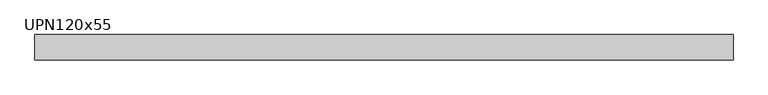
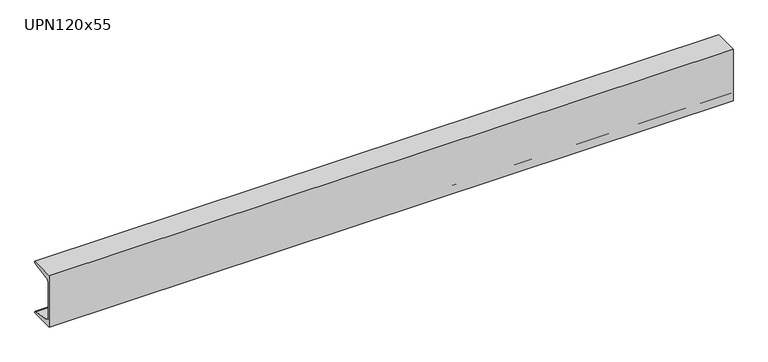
"""IFC4 building model written with IfcOpenShell, lengths in millimetres: beam geometry, M_MC Shapes : UPN120x55."""

import ifcopenshell
import ifcopenshell.guid

model = None  # the IFC model being written
_history = None  # IfcOwnerHistory: only IFC2X3 demands one
_inside = {}  # id of a spatial element -> (the spatial element, [elements in it])
_under = {}  # id of a project, library or spatial element -> (it, [spatial elements below it])
_declared = {}  # id of a project -> (the project, [libraries it declares])
_typed = {}  # id of a type object -> (the type object, [elements of that type])
_made_of = {}  # id of a material, layer set ... -> (it, [elements and type objects made of it])


def new_model(schema):
    """Start an empty IFC model of exactly this schema.

    Asked for "IFC4X3", IfcOpenShell would pick the latest addendum, in which some entities
    have other attributes; the version numbers below select the first issue.
    IFC2X3 requires an IfcOwnerHistory on every rooted entity: one is made here for all.
    """
    global model, _history
    if schema == "IFC4X3":
        model = ifcopenshell.file(schema_version=(4, 3, 0, 0))
    else:
        model = ifcopenshell.file(schema=schema)
    _inside.clear()
    _under.clear()
    _declared.clear()
    _typed.clear()
    _made_of.clear()
    _history = None
    if model.schema == "IFC2X3":
        org = make("IfcOrganization", Name="unknown")
        user = make(
            "IfcPersonAndOrganization",
            ThePerson=make("IfcPerson", FamilyName="unknown"),
            TheOrganization=org,
        )
        app = make(
            "IfcApplication",
            ApplicationDeveloper=org,
            Version="unknown",
            ApplicationFullName="unknown",
            ApplicationIdentifier="unknown",
        )
        _history = make(
            "IfcOwnerHistory",
            OwningUser=user,
            OwningApplication=app,
            ChangeAction="ADDED",
            CreationDate=0,
        )
    return model


def make(cls, **values):
    """One entity of the class cls with the attributes given. An attribute that is None is left unset."""
    return model.create_entity(
        cls, **{name: value for name, value in values.items() if value is not None}
    )


def rooted(cls, **values):
    """An entity with a GlobalId (a new one), such as an element, a storey or a relation."""
    return make(cls, GlobalId=ifcopenshell.guid.new(), OwnerHistory=_history, **values)


def si_unit(unit_type, name, prefix=None):
    """IfcSIUnit, for example si_unit("LENGTHUNIT", "METRE", prefix="MILLI")."""
    return make("IfcSIUnit", UnitType=unit_type, Prefix=prefix, Name=name)


def assignment(units):
    """IfcUnitAssignment: the units of a project."""
    return None if units is None else make("IfcUnitAssignment", Units=units)


def point(xyz):
    """IfcCartesianPoint."""
    return None if xyz is None else make("IfcCartesianPoint", Coordinates=xyz)


def direction(xyz):
    """IfcDirection."""
    return None if xyz is None else make("IfcDirection", DirectionRatios=xyz)


def frame(location, z_axis=None, x_axis=None):
    """IfcAxis2Placement3D, a coordinate frame: its origin and axes. An axis left out is left unset."""
    return make(
        "IfcAxis2Placement3D",
        Location=point(location),
        Axis=direction(z_axis),
        RefDirection=direction(x_axis),
    )


def frame_2d(location, x_axis=None):
    """IfcAxis2Placement2D, a coordinate frame in the plane: its origin and x axis."""
    return make(
        "IfcAxis2Placement2D", Location=point(location), RefDirection=direction(x_axis)
    )


def origin():
    """The frame at (0, 0, 0) with its axes left unset."""
    return frame((0.0, 0.0, 0.0))


def place(relative_to, where):
    """IfcLocalPlacement: puts the frame where relative to a parent placement (None: the world)."""
    return make(
        "IfcLocalPlacement", PlacementRelTo=relative_to, RelativePlacement=where
    )


def context(
    kind, dimensions, precision=None, world=None, true_north=None, identifier=None
):
    """IfcGeometricRepresentationContext, for example the 3D "Model" context."""
    return make(
        "IfcGeometricRepresentationContext",
        ContextIdentifier=identifier,
        ContextType=kind,
        CoordinateSpaceDimension=dimensions,
        Precision=precision,
        WorldCoordinateSystem=world,
        TrueNorth=true_north,
    )


def project(units=None, contexts=None):
    """IfcProject with its units and contexts."""
    return rooted(
        "IfcProject",
        Name="project",
        RepresentationContexts=contexts,
        UnitsInContext=assignment(units),
    )


def spatial(cls, under=None, at=None, **own):
    """A site, building, storey or space (cls), placed at a placement, below another one or the project."""
    s = rooted(cls, ObjectPlacement=at, **own)
    if under is not None:
        _under.setdefault(under.id(), (under, []))[1].append(s)
    return s


def polyline(points):
    """IfcPolyline through the points."""
    return make("IfcPolyline", Points=[point(p) for p in points])


def circle_curve(where, radius):
    """IfcCircle in the frame where."""
    return make("IfcCircle", Position=where, Radius=radius)


def trimmed(basis, trim1, trim2, sense, master):
    """IfcTrimmedCurve: the piece of a basis curve between two trims."""
    return make(
        "IfcTrimmedCurve",
        BasisCurve=basis,
        Trim1=trim1,
        Trim2=trim2,
        SenseAgreement=sense,
        MasterRepresentation=master,
    )


def segment(curve, same_sense, transition):
    """IfcCompositeCurveSegment."""
    return make(
        "IfcCompositeCurveSegment",
        Transition=transition,
        SameSense=same_sense,
        ParentCurve=curve,
    )


def composite_curve(segments, self_intersect=None):
    """IfcCompositeCurve: segments joined end to end."""
    return make("IfcCompositeCurve", Segments=segments, SelfIntersect=self_intersect)


def outline(outer, holes=None, kind="AREA"):
    """IfcArbitraryClosedProfileDef: a profile drawn as a closed curve; with holes, ...WithVoids."""
    if holes is None:
        return make("IfcArbitraryClosedProfileDef", ProfileType=kind, OuterCurve=outer)
    return make(
        "IfcArbitraryProfileDefWithVoids",
        ProfileType=kind,
        OuterCurve=outer,
        InnerCurves=holes,
    )


def extrude(swept, where, along, depth):
    """IfcExtrudedAreaSolid: the profile swept, set in the frame where, extruded along a direction by depth."""
    return make(
        "IfcExtrudedAreaSolid",
        SweptArea=swept,
        Position=where,
        ExtrudedDirection=direction(along),
        Depth=depth,
    )


def shape(context_of_items, identifier, shape_type, items):
    """IfcShapeRepresentation: the items that make up one representation, for example the "Body"."""
    return make(
        "IfcShapeRepresentation",
        ContextOfItems=context_of_items,
        RepresentationIdentifier=identifier,
        RepresentationType=shape_type,
        Items=items,
    )


def source(mapping_origin, context_of_items, identifier, shape_type, items):
    """IfcRepresentationMap: a shape defined once, which mapped items show again and again."""
    return make(
        "IfcRepresentationMap",
        MappingOrigin=mapping_origin,
        MappedRepresentation=shape(context_of_items, identifier, shape_type, items),
    )


def transform(
    local_origin,
    x_axis=None,
    y_axis=None,
    z_axis=None,
    scale=None,
    scale2=None,
    scale3=None,
    uniform=True,
):
    """IfcCartesianTransformationOperator3D, or its non-uniform kind. x_axis, y_axis, z_axis: its Axis1, 2, 3."""
    if uniform:
        return make(
            "IfcCartesianTransformationOperator3D",
            Axis1=direction(x_axis),
            Axis2=direction(y_axis),
            LocalOrigin=point(local_origin),
            Scale=scale,
            Axis3=direction(z_axis),
        )
    return make(
        "IfcCartesianTransformationOperator3DnonUniform",
        Axis1=direction(x_axis),
        Axis2=direction(y_axis),
        LocalOrigin=point(local_origin),
        Scale=scale,
        Axis3=direction(z_axis),
        Scale2=scale2,
        Scale3=scale3,
    )


def mapped(mapping_source, mapping_target):
    """IfcMappedItem: shows the shape of a source again, moved by a transform."""
    return make(
        "IfcMappedItem", MappingSource=mapping_source, MappingTarget=mapping_target
    )


def made_of(thing, what):
    """Note that an element or type object is made of a material, layer set ...; save() writes the relation."""
    if what is not None:
        _made_of.setdefault(what.id(), (what, []))[1].append(thing)
    return thing


def element(
    cls,
    number,
    at=None,
    inside=None,
    cuts=None,
    type_object=None,
    material=None,
    context=None,
    identifier="Body",
    shape_type=None,
    held_by="IfcProductDefinitionShape",
    body=None,
    shapes=None,
    **own,
):
    """One element of the class cls, such as IfcWall. Its Tag is "e" and its number.

    at: its placement. inside: the storey or other place that contains it. cuts: it is an
    opening in that element (IfcRelVoidsElement). A single representation is given by context,
    identifier, shape_type and body (its items); several are given by shapes. held_by: the class
    of the entity that holds the representations. save() writes the other relations.
    """
    e = rooted(cls, Tag="e%d" % number, ObjectPlacement=at, **own)
    if body is not None:
        shapes = [shape(context, identifier, shape_type, body)]
    if shapes is not None:
        e.Representation = make(held_by, Representations=shapes)
    if inside is not None:
        _inside.setdefault(inside.id(), (inside, []))[1].append(e)
    if cuts is not None:
        rooted(
            "IfcRelVoidsElement", RelatingBuildingElement=cuts, RelatedOpeningElement=e
        )
    if type_object is not None:
        _typed.setdefault(type_object.id(), (type_object, []))[1].append(e)
    return made_of(e, material)


def aggregate(whole, parts):
    """IfcRelAggregates: a whole, such as a stair, and the parts it consists of."""
    return rooted("IfcRelAggregates", RelatingObject=whole, RelatedObjects=parts)


def save(model, path):
    """Write the relations noted so far, then the file.

    IfcRelAggregates (storeys below a building ...), IfcRelContainedInSpatialStructure (elements
    in a storey), IfcRelDefinesByType, IfcRelAssociatesMaterial and IfcRelDeclares: one each for
    every whole, place, type object, material and project.
    """
    for whole, parts in _under.values():
        aggregate(whole, parts)
    for where, things in _inside.values():
        rooted(
            "IfcRelContainedInSpatialStructure",
            RelatedElements=things,
            RelatingStructure=where,
        )
    for kind, things in _typed.values():
        rooted("IfcRelDefinesByType", RelatedObjects=things, RelatingType=kind)
    for what, things in _made_of.values():
        rooted("IfcRelAssociatesMaterial", RelatedObjects=things, RelatingMaterial=what)
    for by, libraries in _declared.values():
        rooted("IfcRelDeclares", RelatingContext=by, RelatedDefinitions=libraries)
    model.write(path)


def upn120x55_d7d90911(model_context):
    return source(origin(), model_context, "Body", "SweptSolid", [
        extrude(outline(composite_curve([segment(polyline([(-10.9, 60.0), (44.1, 60.0), (44.1, 59.0253247)]), True, "CONTINUOUS"), segment(trimmed(circle_curve(frame_2d((40.15, 59.0253247)), 3.95), [point((44.1, 59.0253247))], [point((40.7993773, 55.1290689))], False, "CARTESIAN"), True, "CONTINUOUS"), segment(polyline([(40.7993773, 55.1290689), (0.2512455, 48.3710335)]), True, "CONTINUOUS"), segment(trimmed(circle_curve(frame_2d((1.55, 40.5785219)), 7.9), [point((0.2512455, 48.3710335))], [point((-6.35, 40.5785219))], True, "CARTESIAN"), True, "CONTINUOUS"), segment(polyline([(-6.35, 40.5785219), (-6.35, -40.5785219)]), True, "CONTINUOUS"), segment(trimmed(circle_curve(frame_2d((1.55, -40.5785219)), 7.9), [point((-6.35, -40.5785219))], [point((0.2512455, -48.3710335))], True, "CARTESIAN"), True, "CONTINUOUS"), segment(polyline([(0.2512455, -48.3710335), (40.7993773, -55.1290689)]), True, "CONTINUOUS"), segment(trimmed(circle_curve(frame_2d((40.15, -59.0253247)), 3.95), [point((40.7993773, -55.1290689))], [point((44.1, -59.0253247))], False, "CARTESIAN"), True, "CONTINUOUS"), segment(polyline([(44.1, -59.0253247), (44.1, -60.0), (-10.9, -60.0), (-10.9, 60.0)]), True, "CONTINUOUS")], self_intersect=False)), frame((-775.0, 0.0, 0.0), z_axis=(1.0, 0.0, 0.0), x_axis=(0.0, 1.0, 0.0)), (0.0, 0.0, 1.0), 1508.9),
    ])


if __name__ == "__main__":
    model = new_model("IFC4")
    model_context = context("Model", 3, world=origin())
    ifc_project = project(units=[si_unit("LENGTHUNIT", "METRE", prefix="MILLI")], contexts=[model_context])
    site = spatial("IfcSite", under=ifc_project)
    building = spatial("IfcBuilding", under=site)
    placement = place(None, origin())
    upn120x55_shape = upn120x55_d7d90911(model_context)
    element("IfcBeam", 1, ObjectType="M_MC Shapes : UPN120x55", at=placement, inside=building, context=model_context, shape_type="MappedRepresentation", body=[
        mapped(upn120x55_shape, transform((0.0, 0.0, 0.0), x_axis=(1.0, 0.0, 0.0), y_axis=(0.0, 1.0, 0.0), z_axis=(0.0, 0.0, 1.0))),
    ])
    save(model, "model.ifc")
